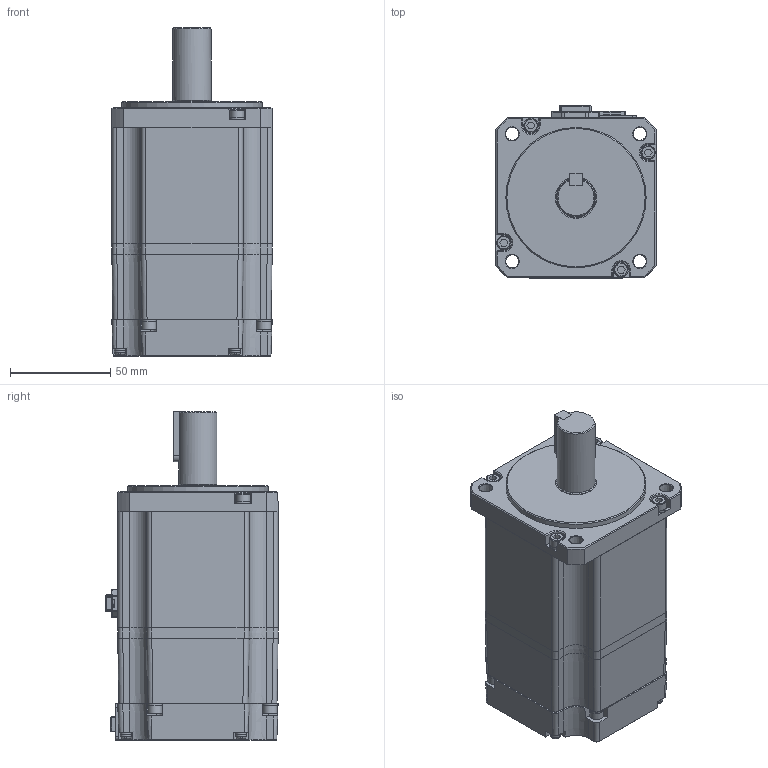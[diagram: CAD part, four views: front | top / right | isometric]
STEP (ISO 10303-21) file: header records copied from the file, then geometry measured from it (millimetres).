
FILE_DESCRIPTION (( 'STEP AP214' ), '1' );
FILE_NAME ('EM08GA002G03_Out Line(APM-EC08AM3K2).STEP', '2022-11-03T09:29:25', ( '' ), ( '' ), 'SwSTEP 2.0', 'SolidWorks 2021', '' );
FILE_SCHEMA (( 'AUTOMOTIVE_DESIGN' ));
Length unit declared in the file: millimetre
Products named in the file (1): EM08GA002G03_Out Line(APM-EC08AM3K2)
Bounding box: 80 x 85.9 x 164 mm (x, y, z)
Volume: 717006.9 mm3; surface area: 114024 mm2
Topology: 35 solids, 35 shells, 1580 faces, 3950 edges, 2508 vertices
Faces by surface type: plane 1126, cylinder 236, cone 144, torus 31, bspline 29, sphere 14
Full cylindrical faces by diameter (mm): 1.589 x1, 1.6 x9, 2 x2, 2.1 x2, 2.5 x8, 3 x8, 3.3 x8, 4 x12, 4.5 x8, 5.4 x8, 7 x8, 7.2 x8, 19 x1, 19.8 x1, 20.6 x1, 70 x1
Entity records: 64651 total; most frequent: CARTESIAN_POINT 10264, ORIENTED_EDGE 7488, DIRECTION 7199, EDGE_CURVE 3744, LINE 2769, VECTOR 2769, VERTEX_POINT 2461, AXIS2_PLACEMENT_3D 2215
